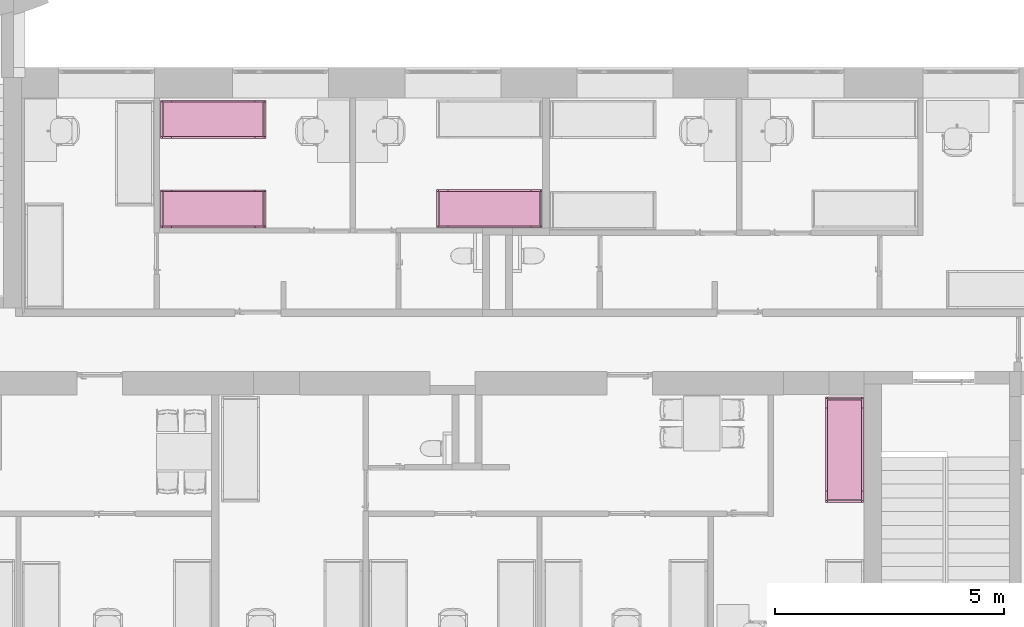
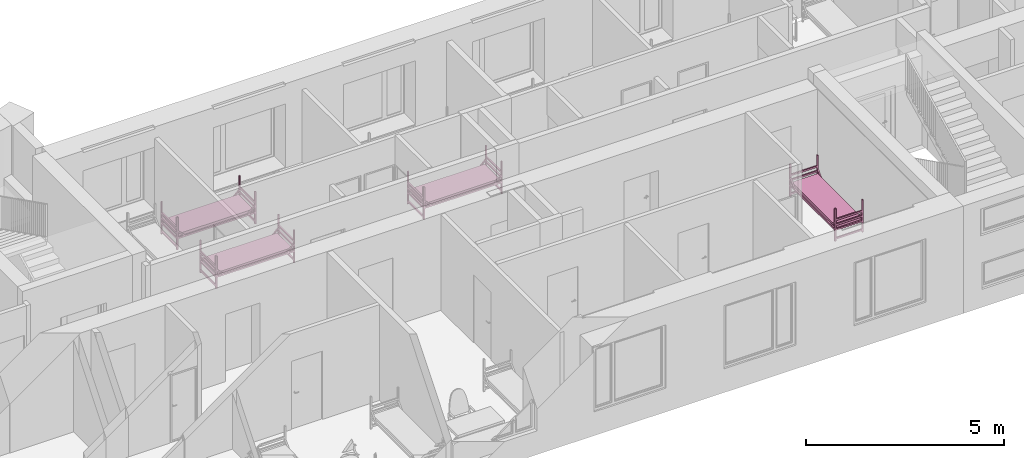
# One storey, part 39 of 48: 4 furnishings.
"""IFC2X3 building model written with IfcOpenShell, lengths in millimetres."""

from ifc_helpers import new_model, entity, si_unit, converted_unit, derived_unit, direction, frame, frame_2d, origin, origin_2d_with_axis, place, context, subcontext, project, spatial, polyline, circle_curve, parameter, trimmed, segment, composite_curve, rectangle, outline, extrude, source, transform, mapped, material, type_object, type_shapes, element, save


model = new_model("IFC2X3")

# Units and contexts
model_context = context("Model", 3, precision=0.01, world=origin(), true_north=direction((6.12303176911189e-17, 1.0)))
body_context = subcontext(model_context, "Body", "Model", "MODEL_VIEW")
ifc_project = project(units=[si_unit("LENGTHUNIT", "METRE", prefix="MILLI"), si_unit("AREAUNIT", "SQUARE_METRE"), si_unit("VOLUMEUNIT", "CUBIC_METRE"), converted_unit("PLANEANGLEUNIT", "DEGREE", entity("IfcRatioMeasure", 0.0174532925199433), si_unit("PLANEANGLEUNIT", "RADIAN"), dimensions=[0, 0, 0, 0, 0, 0, 0]), si_unit("MASSUNIT", "GRAM", prefix="KILO"), derived_unit("MASSDENSITYUNIT", [(si_unit("MASSUNIT", "GRAM", prefix="KILO"), 1), (si_unit("LENGTHUNIT", "METRE"), -3)]), si_unit("TIMEUNIT", "SECOND"), si_unit("FREQUENCYUNIT", "HERTZ"), si_unit("THERMODYNAMICTEMPERATUREUNIT", "DEGREE_CELSIUS"), derived_unit("THERMALTRANSMITTANCEUNIT", [(si_unit("MASSUNIT", "GRAM", prefix="KILO"), 1), (si_unit("THERMODYNAMICTEMPERATUREUNIT", "KELVIN"), -1), (si_unit("TIMEUNIT", "SECOND"), -3)]), derived_unit("VOLUMETRICFLOWRATEUNIT", [(si_unit("LENGTHUNIT", "METRE"), 3), (si_unit("TIMEUNIT", "SECOND"), -1)]), si_unit("ELECTRICCURRENTUNIT", "AMPERE"), si_unit("ELECTRICVOLTAGEUNIT", "VOLT"), si_unit("POWERUNIT", "WATT"), si_unit("FORCEUNIT", "NEWTON", prefix="KILO"), si_unit("ILLUMINANCEUNIT", "LUX"), si_unit("LUMINOUSFLUXUNIT", "LUMEN"), si_unit("LUMINOUSINTENSITYUNIT", "CANDELA"), derived_unit("USERDEFINED", [(si_unit("MASSUNIT", "GRAM", prefix="KILO"), -1), (si_unit("LENGTHUNIT", "METRE"), -2), (si_unit("TIMEUNIT", "SECOND"), 3), (si_unit("LUMINOUSFLUXUNIT", "LUMEN"), 1)]), derived_unit("LINEARVELOCITYUNIT", [(si_unit("LENGTHUNIT", "METRE"), 1), (si_unit("TIMEUNIT", "SECOND"), -1)]), si_unit("PRESSUREUNIT", "PASCAL"), derived_unit("USERDEFINED", [(si_unit("LENGTHUNIT", "METRE"), -2), (si_unit("MASSUNIT", "GRAM", prefix="KILO"), 1), (si_unit("TIMEUNIT", "SECOND"), -2)]), derived_unit("LINEARFORCEUNIT", [(si_unit("MASSUNIT", "GRAM", prefix="KILO"), 1), (si_unit("LENGTHUNIT", "METRE"), 1), (si_unit("TIMEUNIT", "SECOND"), -2), (si_unit("LENGTHUNIT", "METRE"), -1)]), derived_unit("PLANARFORCEUNIT", [(si_unit("MASSUNIT", "GRAM", prefix="KILO"), 1), (si_unit("LENGTHUNIT", "METRE"), 1), (si_unit("TIMEUNIT", "SECOND"), -2), (si_unit("LENGTHUNIT", "METRE"), -2)])], contexts=[model_context])

# Site, building, storey, space
site_placement = place(None, origin())
site = spatial("IfcSite", under=ifc_project, at=site_placement, Name="Default", CompositionType="ELEMENT")
building_placement = place(site_placement, origin())
building = spatial("IfcBuilding", under=site, at=building_placement, Name="SMA ARH", CompositionType="ELEMENT")
storey_placement = place(building_placement, frame((0.0, 0.0, 3300.0)))
storey = spatial("IfcBuildingStorey", under=building, at=storey_placement, Name="2 Korrus", CompositionType="ELEMENT", Elevation=3299.99999999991)
space_1_placement = place(storey_placement, origin())
space_1 = spatial("IfcSpace", under=storey, at=space_1_placement, Name="2-24", CompositionType="ELEMENT", InteriorOrExteriorSpace="INTERNAL")

# Furnishing
ifc_material = material(Name="Madrats")
furniture_type_1 = type_object("IfcFurnitureType", Name="Kasarmu voodi ühekordne 2308x830:Kasarmu voodi ühekordne 2308x830", material=ifc_material)
shared_shape_1 = source(origin(), body_context, "Body", "SweptSolid", [
    extrude(rectangle(XDim=39.9999999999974, YDim=750.000000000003, at=frame_2d((-1.35003119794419e-13, -2.8421709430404e-14), x_axis=(1.0, 0.0))), frame((1.68638457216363, -1226.7969571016, 55.0), z_axis=(0.0, 0.0, 1.0), x_axis=(0.0, -1.0, 0.0)), (0.0, 0.0, 1.0), 49.9999999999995),
    extrude(rectangle(XDim=39.9999999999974, YDim=750.000000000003, at=frame_2d((-1.35003119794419e-13, -2.8421709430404e-14), x_axis=(1.0, 0.0))), frame((1.68638457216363, -1226.7969571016, 325.0), z_axis=(0.0, 0.0, 1.0), x_axis=(0.0, -1.0, 0.0)), (0.0, 0.0, 1.0), 49.9999999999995),
    extrude(rectangle(XDim=39.9999999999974, YDim=750.000000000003, at=frame_2d((-1.35003119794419e-13, -2.8421709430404e-14), x_axis=(1.0, 0.0))), frame((1.68638457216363, -1226.7969571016, 475.0), z_axis=(0.0, 0.0, 1.0), x_axis=(0.0, -1.0, 0.0)), (0.0, 0.0, 1.0), 49.9999999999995),
    extrude(rectangle(XDim=39.9999999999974, YDim=750.000000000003, at=frame_2d((-1.35003119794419e-13, -2.8421709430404e-14), x_axis=(1.0, 0.0))), frame((1.68638457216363, -1226.7969571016, 625.0), z_axis=(0.0, 0.0, 1.0), x_axis=(0.0, -1.0, 0.0)), (0.0, 0.0, 1.0), 50.0000000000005),
    extrude(rectangle(XDim=39.9999999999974, YDim=750.000000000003, at=frame_2d((1.35003119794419e-13, -2.8421709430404e-14), x_axis=(1.0, 0.0))), frame((1.68638457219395, 1041.2030428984, 55.0), z_axis=(0.0, 0.0, 1.0), x_axis=(0.0, -1.0, 0.0)), (0.0, 0.0, 1.0), 50.0000000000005),
    extrude(rectangle(XDim=39.9999999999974, YDim=750.000000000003, at=frame_2d((1.35003119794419e-13, -2.8421709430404e-14), x_axis=(1.0, 0.0))), frame((1.68638457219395, 1041.2030428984, 325.0), z_axis=(0.0, 0.0, 1.0), x_axis=(0.0, -1.0, 0.0)), (0.0, 0.0, 1.0), 50.0000000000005),
    extrude(rectangle(XDim=39.9999999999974, YDim=750.000000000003, at=frame_2d((1.35003119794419e-13, -2.8421709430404e-14), x_axis=(1.0, 0.0))), frame((1.68638457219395, 1041.2030428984, 475.0), z_axis=(0.0, 0.0, 1.0), x_axis=(0.0, -1.0, 0.0)), (0.0, 0.0, 1.0), 50.0000000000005),
    extrude(rectangle(XDim=39.9999999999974, YDim=750.000000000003, at=frame_2d((1.35003119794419e-13, -2.8421709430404e-14), x_axis=(1.0, 0.0))), frame((1.68638457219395, 1041.2030428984, 625.0), z_axis=(0.0, 0.0, 1.0), x_axis=(0.0, -1.0, 0.0)), (0.0, 0.0, 1.0), 49.9999999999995),
    extrude(outline(composite_curve([segment(trimmed(circle_curve(frame_2d((1085.0, -40.0), x_axis=(1.0, 0.0)), 10.0), [parameter(270.0)], [parameter(0.0)], True, "PARAMETER"), True, "CONTINUOUS"), segment(polyline([(1095.0, -40.0), (1095.0, 40.0)]), True, "CONTINUOUS"), segment(trimmed(circle_curve(frame_2d((1085.0, 40.0), x_axis=(1.0, 0.0)), 10.0), [parameter(0.0)], [parameter(90.0000000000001)], True, "PARAMETER"), True, "CONTINUOUS"), segment(polyline([(1085.0, 50.0), (-1085.0, 50.0)]), True, "CONTINUOUS"), segment(trimmed(circle_curve(frame_2d((-1085.0, 40.0), x_axis=(1.0, 0.0)), 10.0), [parameter(90.0000000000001)], [parameter(180.0)], True, "PARAMETER"), True, "CONTINUOUS"), segment(polyline([(-1095.0, 40.0), (-1095.0, -40.0)]), True, "CONTINUOUS"), segment(trimmed(circle_curve(frame_2d((-1085.0, -40.0), x_axis=(1.0, 0.0)), 10.0), [parameter(180.0)], [parameter(270.0)], True, "PARAMETER"), True, "CONTINUOUS"), segment(polyline([(-1085.0, -50.0), (1085.0, -50.0)]), True, "CONTINUOUS")], self_intersect=False)), frame((-373.313615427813, -92.7969571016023, 405.0), z_axis=(1.0, 0.0, 0.0), x_axis=(0.0, -1.0, 0.0)), (0.0, 0.0, 1.0), 750.000000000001),
    extrude(outline(polyline([(-1114.0, -100.0), (1114.0, -100.0), (1114.0, -50.0), (961.59199141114, -50.0), (1114.0, 100.0), (1114.0, 150.0), (910.789321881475, -50.0), (-910.789321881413, -50.0), (-1114.0, 150.0), (-1114.0, 100.0), (-961.591991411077, -50.0), (-1114.0, -50.0), (-1114.0, -100.0)])), frame((-413.313615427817, -92.7969571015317, 430.0), z_axis=(1.0, 0.0, 0.0), x_axis=(0.0, 1.0, 0.0)), (0.0, 0.0, 1.0), 39.9999999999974),
    extrude(outline(polyline([(-1114.0, -100.0), (1114.0, -100.0), (1114.0, -50.0), (961.591991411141, -50.0), (1114.0, 100.0), (1114.0, 150.0), (910.789321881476, -50.0), (-910.789321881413, -50.0), (-1114.0, 150.0), (-1114.0, 100.0), (-961.591991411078, -50.0), (-1114.0, -50.0), (-1114.0, -100.0)])), frame((376.686384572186, -92.796957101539, 430.0), z_axis=(1.0, 0.0, 0.0), x_axis=(0.0, 1.0, 0.0)), (0.0, 0.0, 1.0), 39.9999999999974),
    extrude(rectangle(XDim=39.9999999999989, YDim=39.9999999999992, at=frame_2d((-6.75015598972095e-14, 0.0), x_axis=(1.0, 0.0))), frame((396.686384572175, -1226.79695710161, 0.0), z_axis=(0.0, 0.0, 1.0), x_axis=(0.0, 1.0, 0.0)), (0.0, 0.0, 1.0), 995.0),
    extrude(rectangle(XDim=39.9999999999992, YDim=39.9999999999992, at=frame_2d((-1.35003119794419e-13, 0.0), x_axis=(1.0, 0.0))), frame((396.686384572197, 1041.20304289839, 0.0), z_axis=(0.0, 0.0, 1.0), x_axis=(0.0, 1.0, 0.0)), (0.0, 0.0, 1.0), 995.0),
    extrude(rectangle(XDim=40.0000000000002, YDim=39.9999999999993, at=frame_2d((-1.35003119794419e-13, 0.0), x_axis=(1.0, 0.0))), frame((-393.313615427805, 1041.2030428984, 0.0), z_axis=(0.0, 0.0, 1.0), x_axis=(0.0, 1.0, 0.0)), (0.0, 0.0, 1.0), 995.0),
    extrude(rectangle(XDim=39.9999999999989, YDim=39.9999999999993, at=frame_2d((-6.75015598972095e-14, 0.0), x_axis=(1.0, 0.0))), frame((-393.313615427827, -1226.7969571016, 0.0), z_axis=(0.0, 0.0, 1.0), x_axis=(0.0, 1.0, 0.0)), (0.0, 0.0, 1.0), 995.0),
])
type_shapes(furniture_type_1, [shared_shape_1])
furnishing_1_placement = place(space_1_placement, frame((22143.2030428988, 10076.3136154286, 0.0), z_axis=(0.0, 0.0, 1.0), x_axis=(0.0, 1.0, 0.0)))
element("IfcFurnishingElement", 1, at=furnishing_1_placement, inside=space_1, type_object=furniture_type_1, material=ifc_material, Name="Kasarmu voodi ühekordne 2308x830:Kasarmu voodi ühekordne 2308x830", ObjectType="Kasarmu voodi ühekordne 2308x830:Kasarmu voodi ühekordne 2308x830", context=body_context, shape_type="MappedRepresentation", body=[
    mapped(shared_shape_1, transform((0.0, 0.0, 0.0), scale=1.0)),
])

# Space
space_2_placement = place(storey_placement, origin())
space_2 = spatial("IfcSpace", under=storey, at=space_2_placement, Name="2-6", CompositionType="ELEMENT", InteriorOrExteriorSpace="INTERNAL")

# Furnishing
furniture_type_2 = type_object("IfcFurnitureType", Name="Kasarmu voodi ühekordne 2308x830:Kasarmu voodi ühekordne 2308x830", material=ifc_material)
shared_shape_2 = source(origin(), body_context, "Body", "SweptSolid", [
    extrude(rectangle(XDim=750.000000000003, YDim=39.9999999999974, at=frame_2d((0.0, 1.35003119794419e-13), x_axis=(1.0, 0.0))), frame((1.68638457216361, 1226.7969571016, 55.0)), (0.0, 0.0, 1.0), 49.9999999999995),
    extrude(rectangle(XDim=750.000000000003, YDim=39.9999999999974, at=frame_2d((0.0, 1.35003119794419e-13), x_axis=(1.0, 0.0))), frame((1.68638457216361, 1226.7969571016, 325.0)), (0.0, 0.0, 1.0), 49.9999999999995),
    extrude(rectangle(XDim=750.000000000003, YDim=39.9999999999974, at=frame_2d((0.0, 1.35003119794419e-13), x_axis=(1.0, 0.0))), frame((1.68638457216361, 1226.7969571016, 475.0)), (0.0, 0.0, 1.0), 49.9999999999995),
    extrude(rectangle(XDim=750.000000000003, YDim=39.9999999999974, at=frame_2d((0.0, 1.35003119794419e-13), x_axis=(1.0, 0.0))), frame((1.68638457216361, 1226.7969571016, 625.0)), (0.0, 0.0, 1.0), 50.0000000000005),
    extrude(rectangle(XDim=750.000000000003, YDim=39.9999999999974, at=origin_2d_with_axis()), frame((1.68638457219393, -1041.2030428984, 55.0)), (0.0, 0.0, 1.0), 50.0000000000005),
    extrude(rectangle(XDim=750.000000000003, YDim=39.9999999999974, at=origin_2d_with_axis()), frame((1.68638457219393, -1041.2030428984, 325.0)), (0.0, 0.0, 1.0), 50.0000000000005),
    extrude(rectangle(XDim=750.000000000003, YDim=39.9999999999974, at=origin_2d_with_axis()), frame((1.68638457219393, -1041.2030428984, 475.0)), (0.0, 0.0, 1.0), 50.0000000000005),
    extrude(rectangle(XDim=750.000000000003, YDim=39.9999999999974, at=origin_2d_with_axis()), frame((1.68638457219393, -1041.2030428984, 625.0)), (0.0, 0.0, 1.0), 49.9999999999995),
    extrude(outline(composite_curve([segment(polyline([(-1085.0, -50.0), (1085.0, -50.0)]), True, "CONTINUOUS"), segment(trimmed(circle_curve(frame_2d((1085.0, -40.0), x_axis=(-1.0, 0.0)), 10.0), [parameter(90.0000000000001)], [parameter(180.0)], True, "PARAMETER"), True, "CONTINUOUS"), segment(polyline([(1095.0, -40.0), (1095.0, 40.0)]), True, "CONTINUOUS"), segment(trimmed(circle_curve(frame_2d((1085.0, 40.0), x_axis=(-1.0, 0.0)), 10.0), [parameter(180.0)], [parameter(270.0)], True, "PARAMETER"), True, "CONTINUOUS"), segment(polyline([(1085.0, 50.0), (-1085.0, 50.0)]), True, "CONTINUOUS"), segment(trimmed(circle_curve(frame_2d((-1085.0, 40.0), x_axis=(-1.0, 0.0)), 10.0), [parameter(270.0)], [parameter(0.0)], True, "PARAMETER"), True, "CONTINUOUS"), segment(polyline([(-1095.0, 40.0), (-1095.0, -40.0)]), True, "CONTINUOUS"), segment(trimmed(circle_curve(frame_2d((-1085.0, -40.0), x_axis=(-1.0, 0.0)), 10.0), [parameter(0.0)], [parameter(90.0000000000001)], True, "PARAMETER"), True, "CONTINUOUS")], self_intersect=False)), frame((-373.313615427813, 92.7969571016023, 405.0), z_axis=(1.0, 0.0, 0.0), x_axis=(0.0, -1.0, 0.0)), (0.0, 0.0, 1.0), 750.000000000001),
    extrude(outline(polyline([(-100.0, -1114.0), (-50.0, -1114.0), (-50.0, -961.591991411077), (100.0, -1114.0), (150.0, -1114.0), (-50.0, -910.789321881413), (-50.0, 910.789321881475), (150.0, 1114.0), (100.0, 1114.0), (-50.0, 961.591991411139), (-50.0, 1114.0), (-100.0, 1114.0), (-100.0, -1114.0)])), frame((-413.313615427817, 92.7969571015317, 430.0), z_axis=(1.0, 0.0, 0.0), x_axis=(0.0, 0.0, 1.0)), (0.0, 0.0, 1.0), 39.9999999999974),
    extrude(outline(polyline([(-100.0, -1114.0), (-50.0, -1114.0), (-50.0, -961.591991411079), (100.0, -1114.0), (150.0, -1114.0), (-50.0, -910.789321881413), (-50.0, 910.789321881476), (150.0, 1114.0), (100.0, 1114.0), (-50.0, 961.591991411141), (-50.0, 1114.0), (-100.0, 1114.0), (-100.0, -1114.0)])), frame((376.686384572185, 92.796957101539, 430.0), z_axis=(1.0, 0.0, 0.0), x_axis=(0.0, 0.0, 1.0)), (0.0, 0.0, 1.0), 39.9999999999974),
    extrude(rectangle(XDim=39.9999999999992, YDim=39.9999999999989, at=frame_2d((0.0, -6.75015598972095e-14), x_axis=(1.0, 0.0))), frame((396.686384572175, 1226.79695710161, 0.0), z_axis=(0.0, 0.0, 1.0), x_axis=(-1.0, 0.0, 0.0)), (0.0, 0.0, 1.0), 995.0),
    extrude(rectangle(XDim=39.9999999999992, YDim=39.9999999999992, at=origin_2d_with_axis()), frame((396.686384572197, -1041.20304289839, 0.0), z_axis=(0.0, 0.0, 1.0), x_axis=(-1.0, 0.0, 0.0)), (0.0, 0.0, 1.0), 995.0),
    extrude(rectangle(XDim=39.9999999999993, YDim=40.0000000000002, at=origin_2d_with_axis()), frame((-393.313615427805, -1041.2030428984, 0.0), z_axis=(0.0, 0.0, 1.0), x_axis=(-1.0, 0.0, 0.0)), (0.0, 0.0, 1.0), 995.0),
    extrude(rectangle(XDim=39.9999999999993, YDim=39.9999999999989, at=frame_2d((0.0, -6.75015598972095e-14), x_axis=(1.0, 0.0))), frame((-393.313615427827, 1226.7969571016, 0.0), z_axis=(0.0, 0.0, 1.0), x_axis=(-1.0, 0.0, 0.0)), (0.0, 0.0, 1.0), 995.0),
])
type_shapes(furniture_type_2, [shared_shape_2])
furnishing_2_placement = place(space_2_placement, frame((30003.3136154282, 4900.0, 0.0), z_axis=(0.0, 0.0, 1.0), x_axis=(-1.0, 0.0, 0.0)))
element("IfcFurnishingElement", 2, at=furnishing_2_placement, inside=space_2, type_object=furniture_type_2, material=ifc_material, Name="Kasarmu voodi ühekordne 2308x830:Kasarmu voodi ühekordne 2308x830", ObjectType="Kasarmu voodi ühekordne 2308x830:Kasarmu voodi ühekordne 2308x830", context=body_context, shape_type="MappedRepresentation", body=[
    mapped(shared_shape_2, transform((0.0, 0.0, 0.0), scale=1.0)),
])

# Space
space_3_placement = place(storey_placement, origin())
space_3 = spatial("IfcSpace", under=storey, at=space_3_placement, Name="2-23", CompositionType="ELEMENT", InteriorOrExteriorSpace="INTERNAL")

# Furnishings
for number, where, z_axis, x_axis, name in (
    (3, (16286.796957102, 10071.3136154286, 0.0), (0.0, 0.0, 1.0), (0.0, 1.0, 0.0), "Kasarmu voodi ühekordne 2308x830:Kasarmu voodi ühekordne 2308x830"),
    (4, (16286.796957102, 12030.0, 0.0), (0.0, 0.0, 1.0), (0.0, 1.0, 0.0), "Kasarmu voodi ühekordne 2308x830:Kasarmu voodi ühekordne 2308x830"),
):
    element("IfcFurnishingElement", number, at=place(space_3_placement, frame(where, z_axis=z_axis, x_axis=x_axis)), inside=space_3, type_object=furniture_type_2, material=ifc_material, Name=name, ObjectType="Kasarmu voodi ühekordne 2308x830:Kasarmu voodi ühekordne 2308x830", context=body_context, shape_type="MappedRepresentation", body=[
        mapped(shared_shape_2, transform((0.0, 0.0, 0.0), scale=1.0)),
    ])

save(model, "model.ifc")
